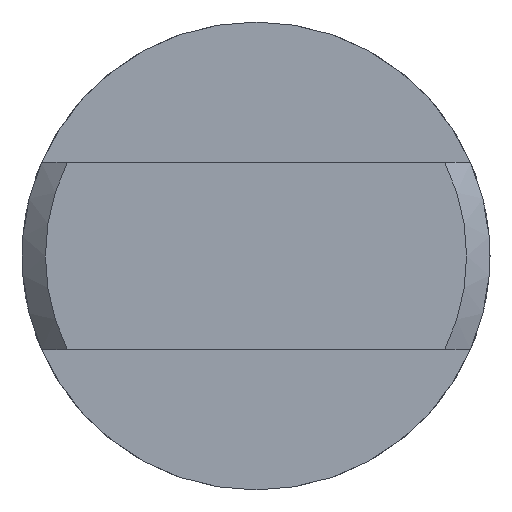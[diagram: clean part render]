
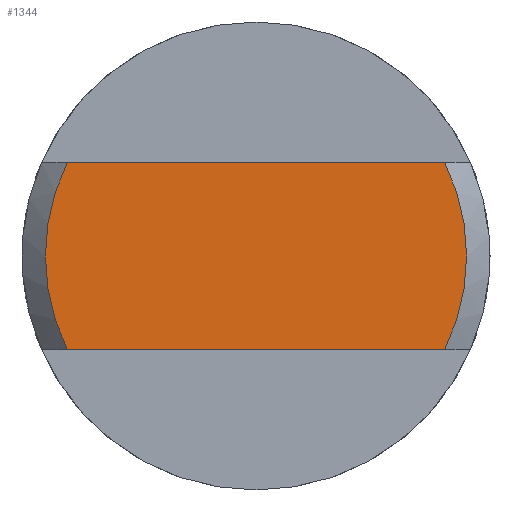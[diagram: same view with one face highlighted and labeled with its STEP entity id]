
A CAD part, left-side view. The second image highlights one B-rep face of the part: STEP entity #1344.
In plain terms, the highlighted planar face has unit normal (-1, 0, 0).
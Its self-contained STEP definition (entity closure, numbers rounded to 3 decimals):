
#138 = CARTESIAN_POINT ( 'NONE',  ( -36.1, 4.031, -2. ) ) ;
#145 = EDGE_CURVE ( 'NONE', #437, #1258, #1262, .T. ) ;
#162 = DIRECTION ( 'NONE',  ( -1., 0., 0. ) ) ;
#231 = AXIS2_PLACEMENT_3D ( 'NONE', #1278, #953, #1163 ) ;
#343 = EDGE_CURVE ( 'NONE', #463, #437, #834, .T. ) ;
#390 = LINE ( 'NONE', #1221, #1259 ) ;
#393 = ORIENTED_EDGE ( 'NONE', *, *, #625, .T. ) ;
#398 = EDGE_LOOP ( 'NONE', ( #706, #393, #853, #849 ) ) ;
#408 = VECTOR ( 'NONE', #1392, 1000. ) ;
#437 = VERTEX_POINT ( 'NONE', #1167 ) ;
#463 = VERTEX_POINT ( 'NONE', #1325 ) ;
#495 = CIRCLE ( 'NONE', #1265, 4.5 ) ;
#531 = DIRECTION ( 'NONE',  ( -1., 0., 0. ) ) ;
#625 = EDGE_CURVE ( 'NONE', #1201, #463, #495, .T. ) ;
#695 = AXIS2_PLACEMENT_3D ( 'NONE', #1068, #531, #1074 ) ;
#705 = CARTESIAN_POINT ( 'NONE',  ( -36.1, -4.031, -2. ) ) ;
#706 = ORIENTED_EDGE ( 'NONE', *, *, #1255, .T. ) ;
#834 = LINE ( 'NONE', #946, #408 ) ;
#849 = ORIENTED_EDGE ( 'NONE', *, *, #145, .T. ) ;
#853 = ORIENTED_EDGE ( 'NONE', *, *, #343, .T. ) ;
#856 = FACE_OUTER_BOUND ( 'NONE', #398, .T. ) ;
#905 = CARTESIAN_POINT ( 'NONE',  ( -36.1, 0., 0. ) ) ;
#946 = CARTESIAN_POINT ( 'NONE',  ( -36.1, 0., 2. ) ) ;
#953 = DIRECTION ( 'NONE',  ( 1., 0., 0. ) ) ;
#961 = PLANE ( 'NONE',  #231 ) ;
#1068 = CARTESIAN_POINT ( 'NONE',  ( -36.1, 0., 0. ) ) ;
#1074 = DIRECTION ( 'NONE',  ( 0., 0., -1. ) ) ;
#1107 = DIRECTION ( 'NONE',  ( 0., -1., 0. ) ) ;
#1163 = DIRECTION ( 'NONE',  ( 0., 0., -1. ) ) ;
#1167 = CARTESIAN_POINT ( 'NONE',  ( -36.1, 4.031, 2. ) ) ;
#1201 = VERTEX_POINT ( 'NONE', #705 ) ;
#1221 = CARTESIAN_POINT ( 'NONE',  ( -36.1, 0., -2. ) ) ;
#1244 = DIRECTION ( 'NONE',  ( 0., 0., -1. ) ) ;
#1255 = EDGE_CURVE ( 'NONE', #1258, #1201, #390, .T. ) ;
#1258 = VERTEX_POINT ( 'NONE', #138 ) ;
#1259 = VECTOR ( 'NONE', #1107, 1000. ) ;
#1262 = CIRCLE ( 'NONE', #695, 4.5 ) ;
#1265 = AXIS2_PLACEMENT_3D ( 'NONE', #905, #162, #1244 ) ;
#1278 = CARTESIAN_POINT ( 'NONE',  ( -36.1, 0., 0. ) ) ;
#1325 = CARTESIAN_POINT ( 'NONE',  ( -36.1, -4.031, 2. ) ) ;
#1344 = ADVANCED_FACE ( 'NONE', ( #856 ), #961, .F. ) ;
#1392 = DIRECTION ( 'NONE',  ( 0., 1., 0. ) ) ;
